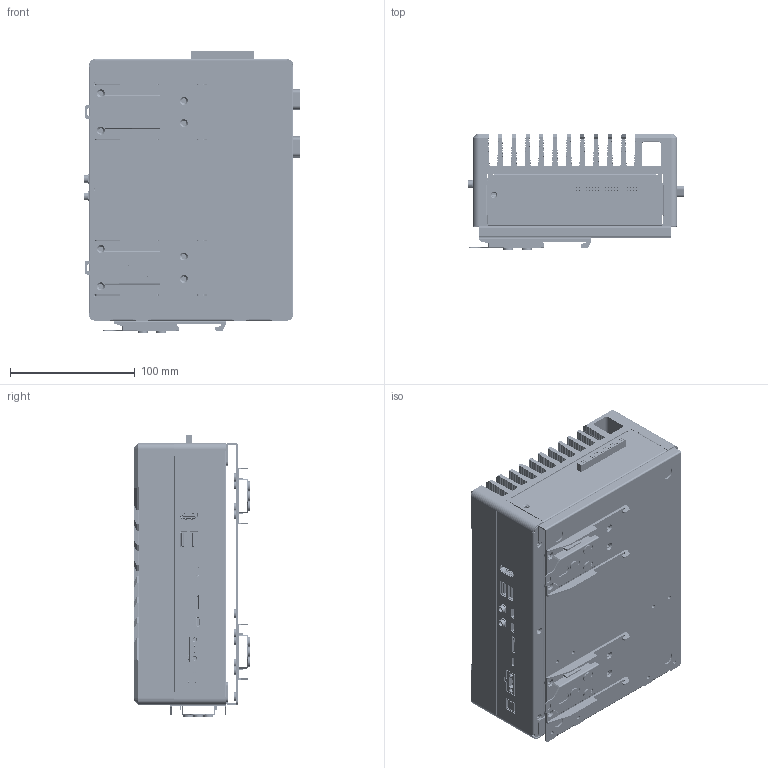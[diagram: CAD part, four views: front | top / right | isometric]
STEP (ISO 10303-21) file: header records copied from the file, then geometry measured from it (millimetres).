
FILE_DESCRIPTION (( 'STEP AP203' ), '1' );
FILE_NAME ('BOXER-8640-X Type-Asembly -LMI-20240312.STEP', '2024-03-14T01:44:56', ( '' ), ( '' ), 'SwSTEP 2.0', 'SolidWorks 2016', '' );
FILE_SCHEMA (( 'CONFIG_CONTROL_DESIGN' ));
Products named in the file (1): BOXER-8640-X Type-Asembly -LMI-20240312
Bounding box: 172.7 x 92.8 x 226.17 mm (x, y, z)
Surface area: 822884.5 mm2 (no closed solid volume)
Topology: 0 solids, 204 shells, 35507 faces, 102175 edges, 66494 vertices
Faces by surface type: plane 22489, cylinder 11047, bspline 1597, cone 325, torus 27, sphere 22
Entity records: 1275379 total; most frequent: CARTESIAN_POINT 417244, ORIENTED_EDGE 202448, DIRECTION 142072, EDGE_CURVE 101296, VERTEX_POINT 66458, VECTOR 55438, LINE 55438, AXIS2_PLACEMENT_3D 43317
